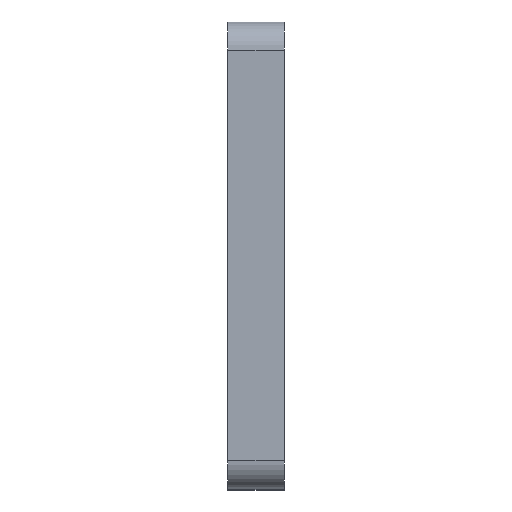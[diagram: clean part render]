
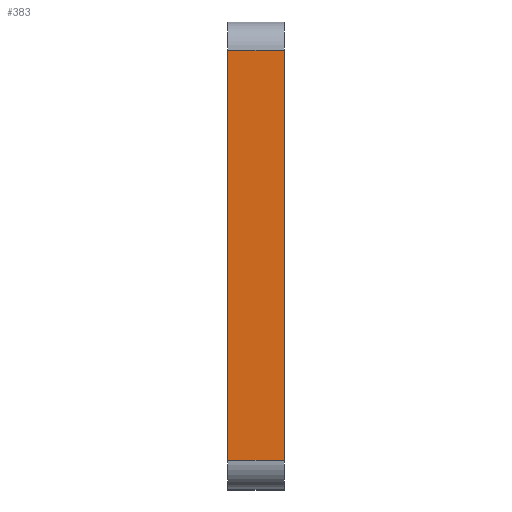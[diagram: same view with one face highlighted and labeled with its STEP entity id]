
A CAD part, top view. The second image highlights one B-rep face of the part: STEP entity #383.
In plain terms, the highlighted planar face has unit normal (0, 0, 1).
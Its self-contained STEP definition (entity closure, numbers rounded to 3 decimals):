
#8 = CARTESIAN_POINT ( 'NONE',  ( 5., -36., 55. ) ) ;
#25 = ORIENTED_EDGE ( 'NONE', *, *, #717, .T. ) ;
#42 = DIRECTION ( 'NONE',  ( -1., 0., 0. ) ) ;
#59 = PLANE ( 'NONE',  #559 ) ;
#76 = CARTESIAN_POINT ( 'NONE',  ( 5., 41., 55. ) ) ;
#85 = VERTEX_POINT ( 'NONE', #529 ) ;
#93 = DIRECTION ( 'NONE',  ( 0., -1., 0. ) ) ;
#96 = VECTOR ( 'NONE', #93, 1000. ) ;
#148 = CARTESIAN_POINT ( 'NONE',  ( 5., 36., 55. ) ) ;
#204 = ORIENTED_EDGE ( 'NONE', *, *, #445, .T. ) ;
#240 = VERTEX_POINT ( 'NONE', #8 ) ;
#245 = VECTOR ( 'NONE', #42, 1000. ) ;
#255 = VECTOR ( 'NONE', #937, 1000. ) ;
#270 = VERTEX_POINT ( 'NONE', #280 ) ;
#280 = CARTESIAN_POINT ( 'NONE',  ( 5., 36., 55. ) ) ;
#323 = VERTEX_POINT ( 'NONE', #732 ) ;
#325 = CARTESIAN_POINT ( 'NONE',  ( -5., 41., 55. ) ) ;
#383 = ADVANCED_FACE ( 'NONE', ( #484 ), #59, .F. ) ;
#384 = EDGE_CURVE ( 'NONE', #85, #323, #664, .T. ) ;
#424 = LINE ( 'NONE', #76, #255 ) ;
#445 = EDGE_CURVE ( 'NONE', #270, #85, #645, .T. ) ;
#484 = FACE_OUTER_BOUND ( 'NONE', #792, .T. ) ;
#485 = VECTOR ( 'NONE', #746, 1000. ) ;
#511 = CARTESIAN_POINT ( 'NONE',  ( 5., 41., 55. ) ) ;
#529 = CARTESIAN_POINT ( 'NONE',  ( -5., 36., 55. ) ) ;
#559 = AXIS2_PLACEMENT_3D ( 'NONE', #511, #667, #597 ) ;
#571 = EDGE_CURVE ( 'NONE', #270, #240, #424, .T. ) ;
#597 = DIRECTION ( 'NONE',  ( 0., 1., 0. ) ) ;
#645 = LINE ( 'NONE', #148, #245 ) ;
#664 = LINE ( 'NONE', #325, #96 ) ;
#667 = DIRECTION ( 'NONE',  ( 0., 0., -1. ) ) ;
#717 = EDGE_CURVE ( 'NONE', #323, #240, #885, .T. ) ;
#729 = ORIENTED_EDGE ( 'NONE', *, *, #571, .F. ) ;
#732 = CARTESIAN_POINT ( 'NONE',  ( -5., -36., 55. ) ) ;
#746 = DIRECTION ( 'NONE',  ( 1., 0., 0. ) ) ;
#792 = EDGE_LOOP ( 'NONE', ( #880, #25, #729, #204 ) ) ;
#839 = CARTESIAN_POINT ( 'NONE',  ( 5., -36., 55. ) ) ;
#880 = ORIENTED_EDGE ( 'NONE', *, *, #384, .T. ) ;
#885 = LINE ( 'NONE', #839, #485 ) ;
#937 = DIRECTION ( 'NONE',  ( 0., -1., 0. ) ) ;
